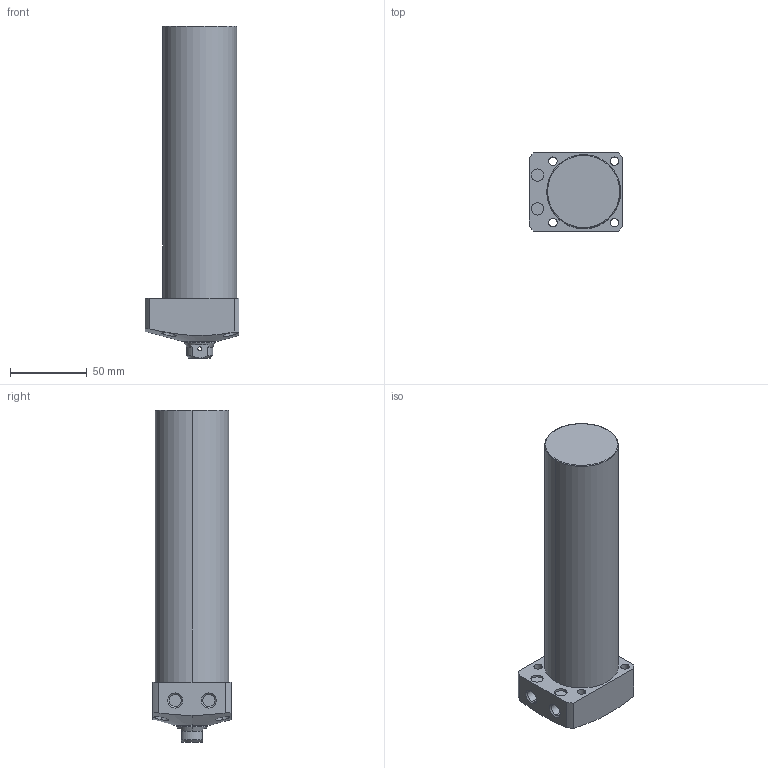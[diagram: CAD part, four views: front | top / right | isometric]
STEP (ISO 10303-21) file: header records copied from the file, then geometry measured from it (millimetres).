
FILE_DESCRIPTION (( 'STEP AP203' ), '1' );
FILE_NAME ('CLL-048CB-150.STEP', '2019-12-21T07:53:41', ( '' ), ( '' ), 'SwSTEP 2.0', 'SolidWorks 2015', '' );
FILE_SCHEMA (( 'CONFIG_CONTROL_DESIGN' ));
Length unit declared in the file: millimetre
Products named in the file (1): CLL-048CB-150
Bounding box: 61 x 51 x 216 mm (x, y, z)
Volume: 394456.1 mm3; surface area: 41506 mm2
Topology: 1 solids, 1 shells, 78 faces, 182 edges, 115 vertices
Faces by surface type: cylinder 39, plane 22, cone 15, torus 2
Entity records: 2751 total; most frequent: CARTESIAN_POINT 852, DIRECTION 394, ORIENTED_EDGE 360, EDGE_CURVE 180, AXIS2_PLACEMENT_3D 163, VERTEX_POINT 115, EDGE_LOOP 101, CIRCLE 84
